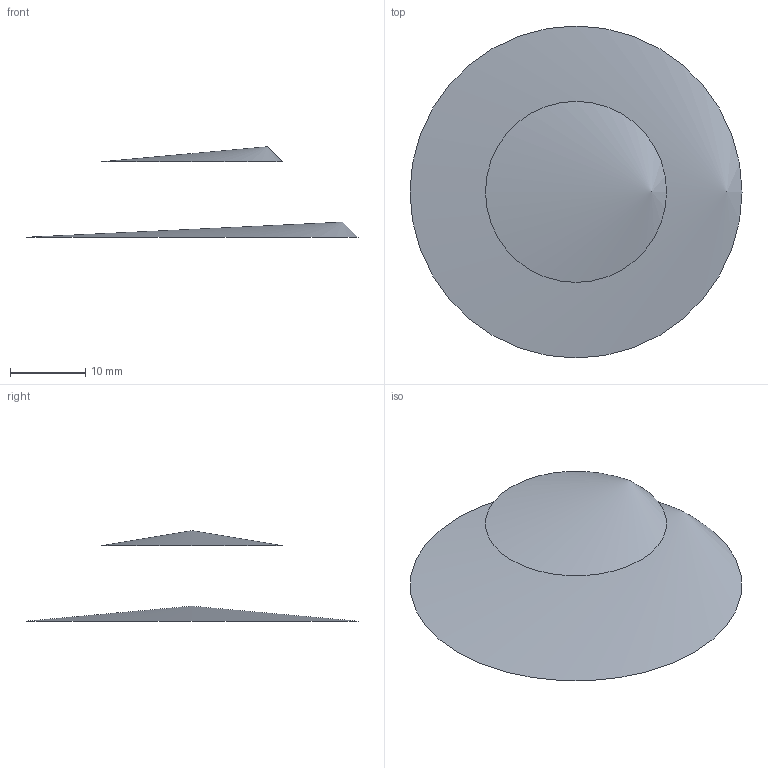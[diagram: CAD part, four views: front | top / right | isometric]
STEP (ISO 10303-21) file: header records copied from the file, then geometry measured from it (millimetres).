
FILE_DESCRIPTION(('BRL-CAD AP214 shared conical surface bands fixture'),'2;1');
FILE_NAME('ap214_shared_conical_surface_bands.stp','2026-07-23T00:00:00',('BRL-CAD'),('BRL-CAD'),'','','');
FILE_SCHEMA(('AUTOMOTIVE_DESIGN { 1 0 10303 214 3 1 1 1 }'));
Length unit declared in the file: millimetre
Products named in the file (1): shared_conical_surface_bands
Bounding box: 44 x 44 x 12 mm (x, y, z)
Surface area: 568.7 mm2 (no closed solid volume)
Topology: 0 solids, 2 shells, 2 faces, 10 edges, 6 vertices
Faces by surface type: cone 2
Entity records: 68 total; most frequent: CARTESIAN_POINT 10, ORIENTED_EDGE 10, EDGE_CURVE 8, VERTEX_POINT 6, AXIS2_PLACEMENT_3D 4, CIRCLE 4, DIRECTION 3, LINE 2
